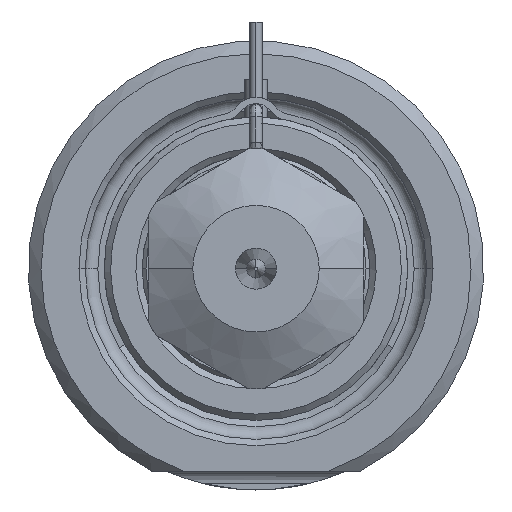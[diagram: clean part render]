
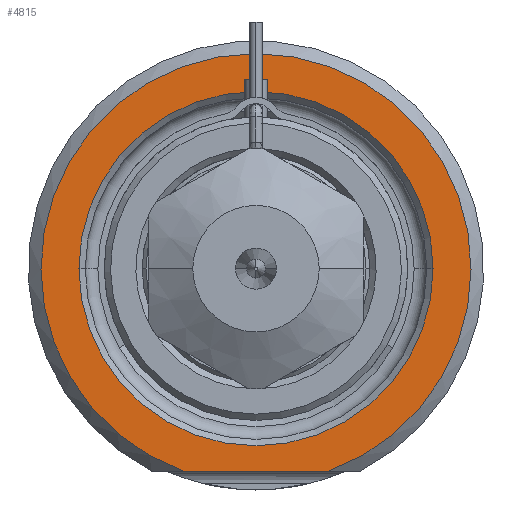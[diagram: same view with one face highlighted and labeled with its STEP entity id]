
A CAD part, front view. The second image highlights one B-rep face of the part: STEP entity #4815.
In plain terms, the highlighted planar face has unit normal (0, -1, 0).
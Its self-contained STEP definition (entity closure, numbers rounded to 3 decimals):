
#1164=CARTESIAN_POINT('',(0.,0.,0.));
#1165=DIRECTION('',(0.,-1.,0.));
#1166=DIRECTION('',(0.338,0.,-0.941));
#1167=AXIS2_PLACEMENT_3D('',#1164,#1165,#1166);
#1188=DIRECTION('',(1.,0.,0.));
#1189=VECTOR('',#1188,11.489);
#1190=CARTESIAN_POINT('',(-5.745,0.,-16.));
#1191=LINE('',#1190,#1189);
#1192=CARTESIAN_POINT('',(0.,0.,0.));
#1193=DIRECTION('',(0.,1.,0.));
#1194=DIRECTION('',(-1.,0.,0.));
#1195=AXIS2_PLACEMENT_3D('',#1192,#1193,#1194);
#1197=CARTESIAN_POINT('',(0.,0.,0.));
#1198=DIRECTION('',(0.,1.,0.));
#1199=DIRECTION('',(1.,0.,0.));
#1200=AXIS2_PLACEMENT_3D('',#1197,#1198,#1199);
#3130=CARTESIAN_POINT('',(-14.,0.,0.));
#3131=CARTESIAN_POINT('',(14.,0.,0.));
#3132=VERTEX_POINT('',#3130);
#3133=VERTEX_POINT('',#3131);
#3170=CARTESIAN_POINT('',(-5.745,0.,-16.));
#3171=CARTESIAN_POINT('',(5.745,0.,-16.));
#3172=VERTEX_POINT('',#3170);
#3173=VERTEX_POINT('',#3171);
#4800=CARTESIAN_POINT('',(0.,0.,0.));
#4801=DIRECTION('',(0.,-1.,0.));
#4802=DIRECTION('',(1.,0.,0.));
#4803=AXIS2_PLACEMENT_3D('',#4800,#4801,#4802);
#4804=PLANE('',#4803);
#4805=ORIENTED_EDGE('',*,*,#4732,.F.);
#4806=ORIENTED_EDGE('',*,*,#4792,.F.);
#4807=EDGE_LOOP('',(#4805,#4806));
#4808=FACE_OUTER_BOUND('',#4807,.F.);
#4810=ORIENTED_EDGE('',*,*,#4809,.F.);
#4812=ORIENTED_EDGE('',*,*,#4811,.F.);
#4813=EDGE_LOOP('',(#4810,#4812));
#4814=FACE_BOUND('',#4813,.F.);
#4815=ADVANCED_FACE('',(#4808,#4814),#4804,.T.);
#1168=CIRCLE('',#1167,17.);
#1196=CIRCLE('',#1195,14.);
#1201=CIRCLE('',#1200,14.);
#4732=EDGE_CURVE('',#3172,#3173,#1191,.T.);
#4792=EDGE_CURVE('',#3173,#3172,#1168,.T.);
#4809=EDGE_CURVE('',#3132,#3133,#1196,.T.);
#4811=EDGE_CURVE('',#3133,#3132,#1201,.T.);
